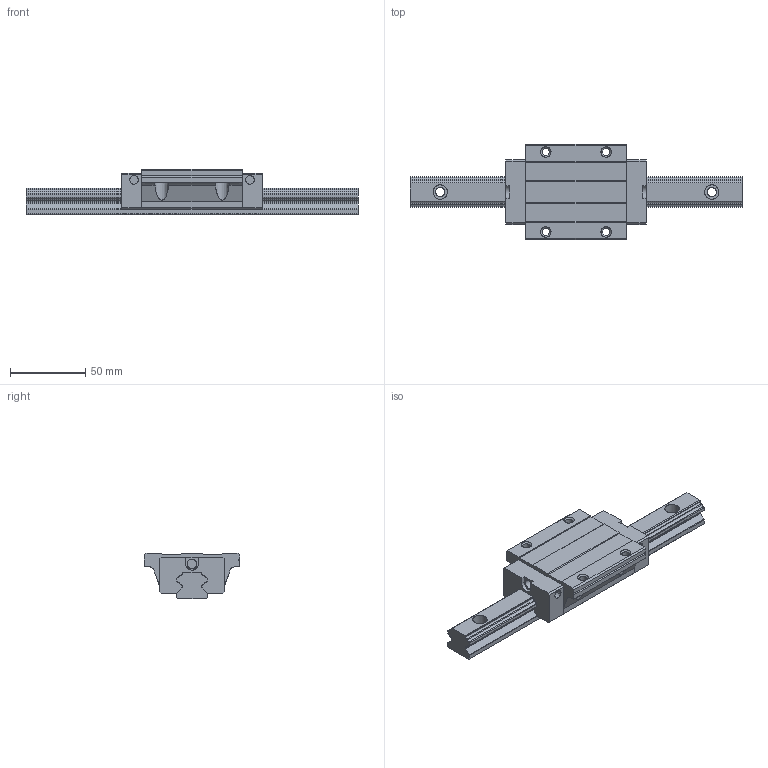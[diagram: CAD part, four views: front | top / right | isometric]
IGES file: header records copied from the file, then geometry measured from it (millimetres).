
Start section: START RECORD GO HERE.
Global section: file name: SBG20_FLL.igs; native system: IBM CATIA IGES - CATIA Version 5 Release 16 ; preprocessor: CATIA Version 5 Release 16 ; author: mycom; organization: RD03; date: 20070228.135534; units: millimetre
Bounding box: 220 x 63 x 30 mm (x, y, z)
Surface area: 43542.4 mm2 (no closed solid volume)
Topology: 0 solids, 0 shells, 272 faces, 1520 edges, 1520 vertices
Faces by surface type: revolution 141, plane 131
